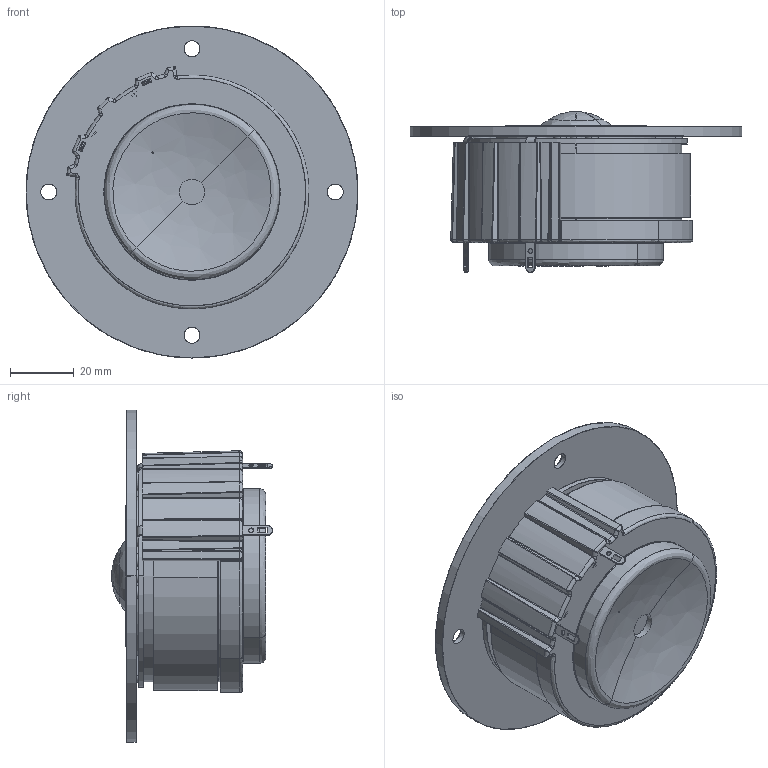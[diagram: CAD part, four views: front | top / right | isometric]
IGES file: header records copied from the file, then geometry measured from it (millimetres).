
Start section: SolidWorks IGES file using analytic representation for surfaces
Global section: file name: W:\TT\WEB 3D enheder\WEB D2905_970000\D2905-930000.IGS; native system: SolidWorks 2019; preprocessor: SolidWorks 2019; author: mhn; date: 201015.114122; units: millimetre
Bounding box: 104.3 x 50.57 x 104.3 mm (x, y, z)
Surface area: 44792.1 mm2 (no closed solid volume)
Topology: 0 solids, 0 shells, 542 faces, 7617 edges, 7598 vertices
Faces by surface type: bspline 306, revolution 236
